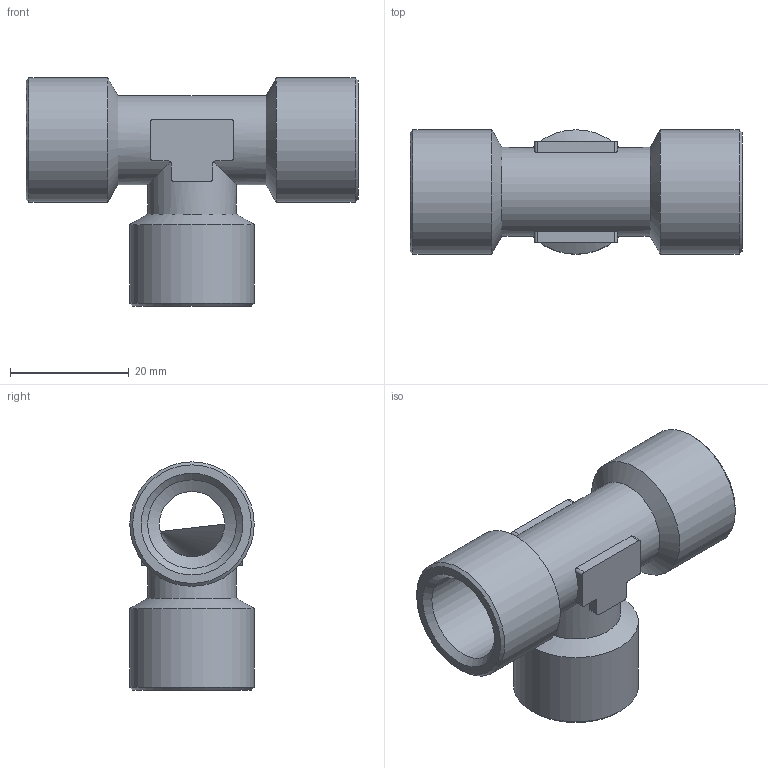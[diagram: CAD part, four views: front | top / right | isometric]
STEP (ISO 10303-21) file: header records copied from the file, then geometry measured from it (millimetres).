
FILE_DESCRIPTION(/* description */ (''),/* implementation_level */ '2;1');
FILE_NAME(/* name */ '40005_111_G38_27.09.16',/* time_stamp */ '2016-09-27T10:37:45+02:00',/* author */ (''),/* organization */ (''),/* preprocessor_version */ 'ST-DEVELOPER v16.5',/* originating_system */ 'HiCAD 2016 2101.0 Build 254',/* authorisation */ '');
FILE_SCHEMA (('AUTOMOTIVE_DESIGN { 1 0 10303 214 1 1 1 1 }'));
Length unit declared in the file: millimetre
Products named in the file (2): Root; 40005
Assembly tree (1 placements, depth 2):
  Root
    40005
Bounding box: 56 x 21 x 38.5 mm (x, y, z)
Volume: 10887.6 mm3; surface area: 8390 mm2
Topology: 1 solids, 1 shells, 59 faces, 157 edges, 99 vertices
Faces by surface type: cylinder 26, plane 21, cone 12
Full cylindrical faces by diameter (mm): 11 x2, 14.95 x3, 15 x2, 21 x3
Entity records: 5611 total; most frequent: CARTESIAN_POINT 2970, DIRECTION 280, PRESENTATION_STYLE_ASSIGNMENT 257, COLOUR_RGB 257, DRAUGHTING_PRE_DEFINED_CURVE_FONT 256, CURVE_STYLE 256, OVER_RIDING_STYLED_ITEM 256, ORIENTED_EDGE 256
